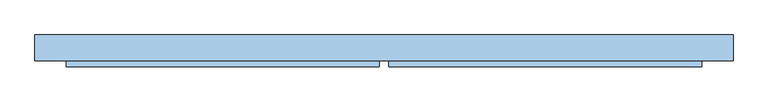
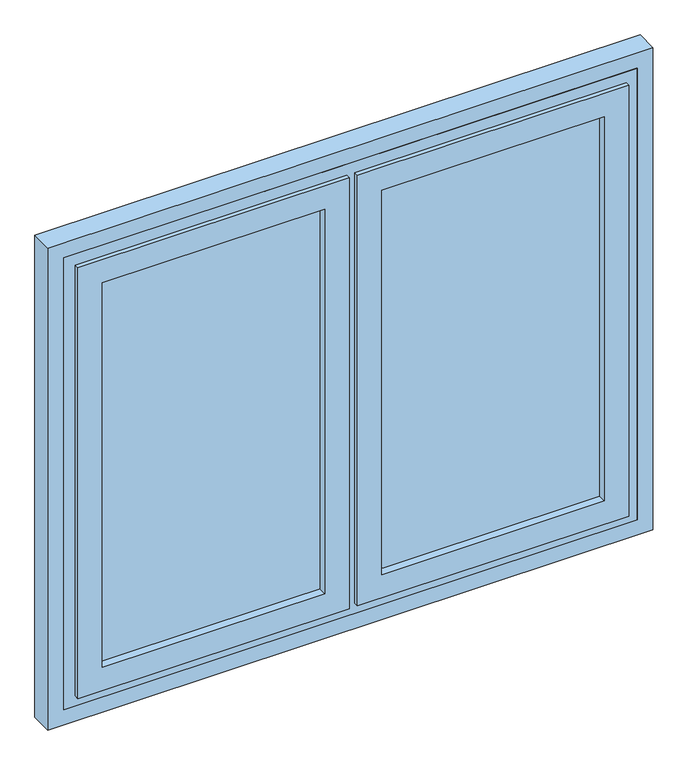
"""IFC4 building model written with IfcOpenShell, lengths in millimetres: window geometry, Окно 2-Распашное - Один переплет с многокамерным стеклопакетом - 30674-99 : ОП Д2  1500-1800 (4M1-16-4M1)  ГОСТ 30674-99."""

from ifc_helpers import new_model, si_unit, frame, origin, place, context, project, spatial, polyline, outline, extrude, faceted_brep, source, transform, mapped, element, save


def window_91fb4078(model_context):
    return source(origin(), model_context, "Body", "SolidModel", [
        extrude(outline(polyline([(2258.0, 70.0), (942.0, 70.0), (942.0, 808.0), (2258.0, 808.0), (2258.0, 70.0)]), holes=[polyline([(957.0, 85.0), (2243.0, 85.0), (2243.0, 793.0), (957.0, 793.0), (957.0, 85.0)])]), frame((0.0, 249.0, 0.0), z_axis=(0.0, 1.0, 0.0), x_axis=(0.0, 0.0, 1.0)), (0.0, 0.0, 1.0), 16.0),
        extrude(outline(polyline([(70.0, 269.0), (808.0, 269.0), (808.0, 265.0), (70.0, 265.0), (70.0, 269.0)])), frame((0.0, 0.0, 942.0), z_axis=(0.0, 0.0, 1.0), x_axis=(1.0, 0.0, 0.0)), (0.0, 0.0, 1.0), 1316.0),
        extrude(outline(polyline([(70.0, 249.0), (808.0, 249.0), (808.0, 245.0), (70.0, 245.0), (70.0, 249.0)])), frame((0.0, 0.0, 942.0), z_axis=(0.0, 0.0, 1.0), x_axis=(1.0, 0.0, 0.0)), (0.0, 0.0, 1.0), 1316.0),
        extrude(outline(polyline([(2258.0, -70.0), (2258.0, -808.0), (942.0, -808.0), (942.0, -70.0), (2258.0, -70.0)]), holes=[polyline([(957.0, -85.0), (957.0, -793.0), (2243.0, -793.0), (2243.0, -85.0), (957.0, -85.0)])]), frame((0.0, 249.0, 0.0), z_axis=(0.0, 1.0, 0.0), x_axis=(0.0, 0.0, 1.0)), (0.0, 0.0, 1.0), 16.0),
        extrude(outline(polyline([(-70.0, 269.0), (-70.0, 265.0), (-808.0, 265.0), (-808.0, 269.0), (-70.0, 269.0)])), frame((0.0, 0.0, 942.0), z_axis=(0.0, 0.0, 1.0), x_axis=(1.0, 0.0, 0.0)), (0.0, 0.0, 1.0), 1316.0),
        extrude(outline(polyline([(-70.0, 249.0), (-70.0, 245.0), (-808.0, 245.0), (-808.0, 249.0), (-70.0, 249.0)])), frame((0.0, 0.0, 942.0), z_axis=(0.0, 0.0, 1.0), x_axis=(1.0, 0.0, 0.0)), (0.0, 0.0, 1.0), 1316.0),
        faceted_brep([(90.0, 289.0, 2238.0), (90.0, 269.0, 2238.0), (90.0, 269.0, 962.0), (90.0, 289.0, 962.0), (70.0, 269.0, 942.0), (808.0, 269.0, 942.0), (808.0, 269.0, 2258.0), (70.0, 269.0, 2258.0), (788.0, 269.0, 2238.0), (788.0, 269.0, 962.0), (788.0, 289.0, 962.0), (33.0, 289.0, 2295.0), (845.0, 289.0, 2295.0), (845.0, 289.0, 905.0), (33.0, 289.0, 905.0), (788.0, 289.0, 2238.0), (33.0, 233.0, 2295.0), (33.0, 233.0, 905.0), (845.0, 233.0, 905.0), (13.0, 233.0, 2315.0), (865.0, 233.0, 2315.0), (865.0, 233.0, 885.0), (13.0, 233.0, 885.0), (845.0, 233.0, 2295.0), (13.0, 219.0, 2315.0), (13.0, 219.0, 885.0), (865.0, 219.0, 885.0), (865.0, 219.0, 2315.0), (90.0, 219.0, 2238.0), (788.0, 219.0, 2238.0), (788.0, 219.0, 962.0), (90.0, 219.0, 962.0), (90.0, 245.0, 2238.0), (90.0, 245.0, 962.0), (788.0, 245.0, 962.0), (70.0, 245.0, 2258.0), (808.0, 245.0, 2258.0), (808.0, 245.0, 942.0), (70.0, 245.0, 942.0), (788.0, 245.0, 2238.0)], [[[0, 1, 2, 3]], [[4, 5, 6, 7], [1, 8, 9, 2]], [[3, 2, 9, 10]], [[11, 12, 13, 14], [3, 10, 15, 0]], [[16, 11, 14, 17]], [[17, 14, 13, 18]], [[19, 20, 21, 22], [17, 18, 23, 16]], [[24, 19, 22, 25]], [[25, 22, 21, 26]], [[25, 26, 27, 24], [28, 29, 30, 31]], [[32, 28, 31, 33]], [[33, 31, 30, 34]], [[35, 36, 37, 38], [33, 34, 39, 32]], [[7, 35, 38, 4]], [[4, 38, 37, 5]], [[10, 9, 8, 15]], [[18, 13, 12, 23]], [[26, 21, 20, 27]], [[34, 30, 29, 39]], [[5, 37, 36, 6]], [[27, 20, 19, 24]], [[15, 8, 1, 0]], [[23, 12, 11, 16]], [[39, 29, 28, 32]], [[6, 36, 35, 7]]]),
        faceted_brep([(-900.0, 305.0, 850.0), (900.0, 305.0, 850.0), (900.0, 235.0, 850.0), (-900.0, 235.0, 850.0), (900.0, 305.0, 2350.0), (900.0, 235.0, 2350.0), (-900.0, 305.0, 2350.0), (-837.0, 305.0, 913.0), (-41.0, 305.0, 913.0), (-41.0, 305.0, 2287.0), (-837.0, 305.0, 2287.0), (837.0, 305.0, 913.0), (837.0, 305.0, 2287.0), (41.0, 305.0, 2287.0), (41.0, 305.0, 913.0), (-900.0, 235.0, 2350.0), (857.0, 235.0, 2307.0), (857.0, 235.0, 893.0), (21.0, 235.0, 893.0), (21.0, 235.0, 2307.0), (-857.0, 235.0, 2307.0), (-21.0, 235.0, 2307.0), (-21.0, 235.0, 893.0), (-857.0, 235.0, 893.0), (857.0, 291.0, 893.0), (21.0, 291.0, 893.0), (-21.0, 291.0, 893.0), (-857.0, 291.0, 893.0), (857.0, 291.0, 2307.0), (21.0, 291.0, 2307.0), (837.0, 291.0, 913.0), (41.0, 291.0, 913.0), (41.0, 291.0, 2287.0), (837.0, 291.0, 2287.0), (-857.0, 291.0, 2307.0), (-21.0, 291.0, 2307.0), (-837.0, 291.0, 2287.0), (-41.0, 291.0, 2287.0), (-41.0, 291.0, 913.0), (-837.0, 291.0, 913.0)], [[[0, 1, 2, 3]], [[2, 1, 4, 5]], [[4, 1, 0, 6], [7, 8, 9, 10], [11, 12, 13, 14]], [[2, 5, 15, 3], [16, 17, 18, 19], [20, 21, 22, 23]], [[17, 24, 25, 18]], [[26, 27, 23, 22]], [[24, 17, 16, 28]], [[24, 28, 29, 25], [30, 31, 32, 33]], [[34, 27, 26, 35], [36, 37, 38, 39]], [[30, 11, 14, 31]], [[7, 39, 38, 8]], [[11, 30, 33, 12]], [[15, 6, 0, 3]], [[34, 20, 23, 27]], [[10, 36, 39, 7]], [[9, 8, 38, 37]], [[14, 13, 32, 31]], [[22, 21, 35, 26]], [[19, 18, 25, 29]], [[15, 5, 4, 6]], [[29, 28, 16, 19]], [[20, 34, 35, 21]], [[12, 33, 32, 13]], [[36, 10, 9, 37]]]),
        faceted_brep([(-70.0, 245.0, 2258.0), (-70.0, 269.0, 2258.0), (-70.0, 269.0, 942.0), (-70.0, 245.0, 942.0), (-808.0, 269.0, 2258.0), (-808.0, 269.0, 942.0), (-90.0, 269.0, 962.0), (-788.0, 269.0, 962.0), (-788.0, 269.0, 2238.0), (-90.0, 269.0, 2238.0), (-808.0, 245.0, 942.0), (-808.0, 245.0, 2258.0), (-90.0, 245.0, 2238.0), (-788.0, 245.0, 2238.0), (-788.0, 245.0, 962.0), (-90.0, 245.0, 962.0), (-90.0, 219.0, 2238.0), (-90.0, 219.0, 962.0), (-788.0, 219.0, 962.0), (-13.0, 219.0, 2315.0), (-865.0, 219.0, 2315.0), (-865.0, 219.0, 885.0), (-13.0, 219.0, 885.0), (-788.0, 219.0, 2238.0), (-13.0, 233.0, 2315.0), (-13.0, 233.0, 885.0), (-865.0, 233.0, 885.0), (-865.0, 233.0, 2315.0), (-33.0, 233.0, 2295.0), (-845.0, 233.0, 2295.0), (-845.0, 233.0, 905.0), (-33.0, 233.0, 905.0), (-33.0, 289.0, 2295.0), (-33.0, 289.0, 905.0), (-845.0, 289.0, 905.0), (-845.0, 289.0, 2295.0), (-90.0, 289.0, 2238.0), (-788.0, 289.0, 2238.0), (-788.0, 289.0, 962.0), (-90.0, 289.0, 962.0)], [[[0, 1, 2, 3]], [[1, 4, 5, 2], [6, 7, 8, 9]], [[3, 2, 5, 10]], [[3, 10, 11, 0], [12, 13, 14, 15]], [[16, 12, 15, 17]], [[17, 15, 14, 18]], [[19, 20, 21, 22], [17, 18, 23, 16]], [[24, 19, 22, 25]], [[25, 22, 21, 26]], [[25, 26, 27, 24], [28, 29, 30, 31]], [[32, 28, 31, 33]], [[33, 31, 30, 34]], [[33, 34, 35, 32], [36, 37, 38, 39]], [[9, 36, 39, 6]], [[6, 39, 38, 7]], [[10, 5, 4, 11]], [[18, 14, 13, 23]], [[26, 21, 20, 27]], [[34, 30, 29, 35]], [[7, 38, 37, 8]], [[27, 20, 19, 24]], [[11, 4, 1, 0]], [[23, 13, 12, 16]], [[35, 29, 28, 32]], [[8, 37, 36, 9]]]),
        extrude(outline(polyline([(800.0, -950.0), (800.0, 950.0), (2400.0, 950.0), (2400.0, -950.0), (800.0, -950.0)]), holes=[polyline([(2350.0, -900.0), (2350.0, 900.0), (850.0, 900.0), (850.0, -900.0), (2350.0, -900.0)])]), frame((0.0, 235.0, 0.0), z_axis=(0.0, 1.0, 0.0), x_axis=(0.0, 0.0, 1.0)), (0.0, 0.0, 1.0), 70.0),
    ])


if __name__ == "__main__":
    model = new_model("IFC4")
    model_context = context("Model", 3, world=origin())
    ifc_project = project(units=[si_unit("LENGTHUNIT", "METRE", prefix="MILLI")], contexts=[model_context])
    site = spatial("IfcSite", under=ifc_project)
    building = spatial("IfcBuilding", under=site)
    placement = place(None, origin())
    window_shape = window_91fb4078(model_context)
    element("IfcWindow", 1, ObjectType="Окно 2-Распашное - Один переплет с многокамерным стеклопакетом - 30674-99 : ОП Д2  1500-1800 (4M1-16-4M1)  ГОСТ 30674-99", at=placement, inside=building, context=model_context, shape_type="MappedRepresentation", body=[
        mapped(window_shape, transform((0.0, 0.0, 0.0), x_axis=(1.0, 0.0, 0.0), y_axis=(0.0, 1.0, 0.0), z_axis=(0.0, 0.0, 1.0))),
    ])
    save(model, "model.ifc")
